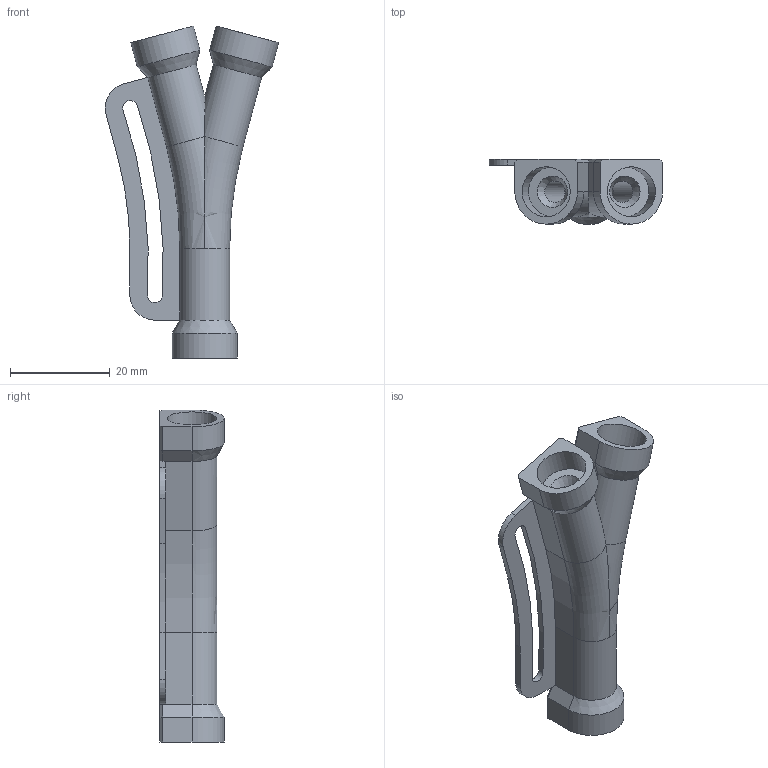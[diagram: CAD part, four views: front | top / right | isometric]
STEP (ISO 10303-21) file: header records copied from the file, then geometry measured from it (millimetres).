
FILE_DESCRIPTION(/* description */ (''),/* implementation_level */ '2;1');
FILE_NAME(/* name */ 'No-Catch Y-Splitter Self-Tap (long slot) (10mm-M3x6 mount).step',/* time_stamp */ '2023-11-07T07:45:58-05:00',/* author */ (''),/* organization */ (''),/* preprocessor_version */ 'ST-DEVELOPER v20',/* originating_system */ 'Autodesk Translation Framework v12.14.0.127',/* authorisation */ '');
FILE_SCHEMA (('AUTOMOTIVE_DESIGN { 1 0 10303 214 3 1 1 }'));
Length unit declared in the file: millimetre
Products named in the file (1): No-Catch Y-Splitter (long slot) PC4-M10 231107
Bounding box: 34.74 x 13 x 66.56 mm (x, y, z)
Volume: 8754.7 mm3; surface area: 6683.3 mm2
Topology: 2 solids, 2 shells, 92 faces, 217 edges, 132 vertices
Faces by surface type: plane 57, cylinder 24, cone 7, bspline 2, torus 2
Full cylindrical faces by diameter (mm): 2 x1, 3.85 x1, 4.3 x3, 7.4 x1, 10 x3
Entity records: 2800 total; most frequent: CARTESIAN_POINT 590, DIRECTION 457, ORIENTED_EDGE 434, EDGE_CURVE 217, AXIS2_PLACEMENT_3D 155, LINE 147, VECTOR 147, VERTEX_POINT 132
